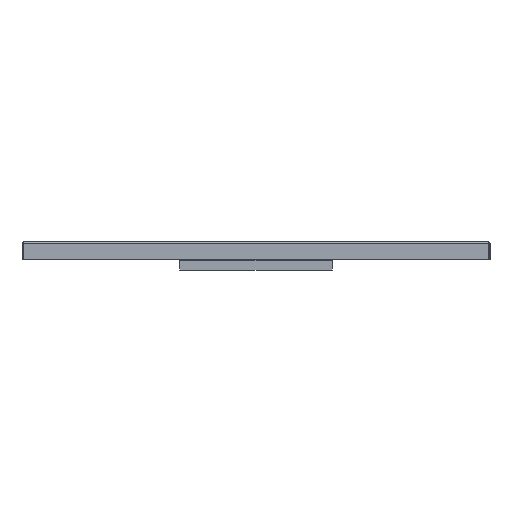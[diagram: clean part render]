
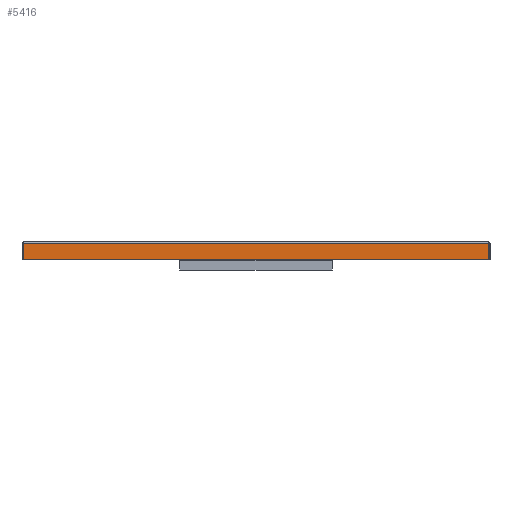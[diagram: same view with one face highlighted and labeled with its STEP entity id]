
A CAD part, left-side view. The second image highlights one B-rep face of the part: STEP entity #5416.
In plain terms, the highlighted planar face has unit normal (-1, 0, 0).
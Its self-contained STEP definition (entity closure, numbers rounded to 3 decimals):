
#17 = CARTESIAN_POINT ( 'NONE',  ( -84.056, 178.164, -2.085 ) ) ;
#82 = CARTESIAN_POINT ( 'NONE',  ( -84.056, 385.126, -2.073 ) ) ;
#144 = CARTESIAN_POINT ( 'NONE',  ( -84.056, 239.636, -2.077 ) ) ;
#170 = DIRECTION ( 'NONE',  ( 0., 1., 0. ) ) ;
#297 = ORIENTED_EDGE ( 'NONE', *, *, #4498, .F. ) ;
#340 = LINE ( 'NONE', #4151, #8381 ) ;
#560 = VERTEX_POINT ( 'NONE', #1806 ) ;
#753 = VERTEX_POINT ( 'NONE', #9732 ) ;
#1075 = CARTESIAN_POINT ( 'NONE',  ( -84.056, 858.317, -2.063 ) ) ;
#1138 = CARTESIAN_POINT ( 'NONE',  ( -84.056, 886.93, -2.005 ) ) ;
#1203 = CARTESIAN_POINT ( 'NONE',  ( -84.056, 711.373, -2.076 ) ) ;
#1263 = DIRECTION ( 'NONE',  ( 0., 1., 0. ) ) ;
#1806 = CARTESIAN_POINT ( 'NONE',  ( -84.056, 90.93, -2.005 ) ) ;
#1949 = CARTESIAN_POINT ( 'NONE',  ( -84.056, 90.93, -2.005 ) ) ;
#2322 = ORIENTED_EDGE ( 'NONE', *, *, #3803, .F. ) ;
#2884 = CARTESIAN_POINT ( 'NONE',  ( -84.056, 136.522, -2.085 ) ) ;
#2947 = CARTESIAN_POINT ( 'NONE',  ( -84.056, 637.9, -2.074 ) ) ;
#3011 = CARTESIAN_POINT ( 'NONE',  ( -84.056, 94.23, -2.012 ) ) ;
#3117 = ORIENTED_EDGE ( 'NONE', *, *, #11789, .F. ) ;
#3271 = DIRECTION ( 'NONE',  ( 0., 0., -1. ) ) ;
#3353 = VERTEX_POINT ( 'NONE', #3582 ) ;
#3431 = VERTEX_POINT ( 'NONE', #7493 ) ;
#3582 = CARTESIAN_POINT ( 'NONE',  ( -84.056, 90.93, -30. ) ) ;
#3648 = B_SPLINE_CURVE_WITH_KNOTS ( 'NONE', 3,
 ( #1138, #5677, #5872, #1075, #11523, #6870, #8549, #6616, #1203, #11325, #2947, #5002, #5737, #82, #3755, #144, #3949, #17, #5805, #2884, #3885, #8740, #3011, #1949 ),
 .UNSPECIFIED., .F., .F.,
 ( 4, 1, 1, 1, 1, 1, 1, 1, 1, 1, 1, 1, 1, 1, 1, 1, 1, 1, 1, 1, 1, 4 ),
 ( 2., 12.245, 30.613, 48.981, 67.349, 85.718, 150.006, 177.558, 205.11, 232.662, 315.318, 397.975, 503.805, 609.635, 657.226, 681.022, 716.715, 734.562, 752.409, 770.256, 788.102, 798. ),
 .UNSPECIFIED. ) ;
#3755 = CARTESIAN_POINT ( 'NONE',  ( -84.056, 298.709, -2.074 ) ) ;
#3803 = EDGE_CURVE ( 'NONE', #3431, #753, #340, .T. ) ;
#3885 = CARTESIAN_POINT ( 'NONE',  ( -84.056, 118.675, -2.062 ) ) ;
#3949 = CARTESIAN_POINT ( 'NONE',  ( -84.056, 203.943, -2.08 ) ) ;
#3998 = VECTOR ( 'NONE', #3271, 1000. ) ;
#4151 = CARTESIAN_POINT ( 'NONE',  ( -84.056, 886.93, -30. ) ) ;
#4422 = AXIS2_PLACEMENT_3D ( 'NONE', #9505, #4769, #170 ) ;
#4498 = EDGE_CURVE ( 'NONE', #3353, #3431, #9731, .T. ) ;
#4769 = DIRECTION ( 'NONE',  ( 1., 0., 0. ) ) ;
#5002 = CARTESIAN_POINT ( 'NONE',  ( -84.056, 573.612, -2.073 ) ) ;
#5190 = CARTESIAN_POINT ( 'NONE',  ( -84.056, 90.93, -2.005 ) ) ;
#5361 = ORIENTED_EDGE ( 'NONE', *, *, #7524, .F. ) ;
#5416 = ADVANCED_FACE ( 'NONE', ( #9572 ), #10741, .F. ) ;
#5677 = CARTESIAN_POINT ( 'NONE',  ( -84.056, 883.515, -2.012 ) ) ;
#5737 = CARTESIAN_POINT ( 'NONE',  ( -84.056, 483.231, -2.073 ) ) ;
#5805 = CARTESIAN_POINT ( 'NONE',  ( -84.056, 154.369, -2.089 ) ) ;
#5872 = CARTESIAN_POINT ( 'NONE',  ( -84.056, 873.978, -2.029 ) ) ;
#5897 = EDGE_LOOP ( 'NONE', ( #5361, #3117, #2322, #297 ) ) ;
#6616 = CARTESIAN_POINT ( 'NONE',  ( -84.056, 751.17, -2.078 ) ) ;
#6870 = CARTESIAN_POINT ( 'NONE',  ( -84.056, 821.581, -2.089 ) ) ;
#7493 = CARTESIAN_POINT ( 'NONE',  ( -84.056, 886.93, -30. ) ) ;
#7524 = EDGE_CURVE ( 'NONE', #560, #3353, #11717, .T. ) ;
#7946 = DIRECTION ( 'NONE',  ( 0., 0., 1. ) ) ;
#8381 = VECTOR ( 'NONE', #7946, 1000. ) ;
#8549 = CARTESIAN_POINT ( 'NONE',  ( -84.056, 787.906, -2.082 ) ) ;
#8740 = CARTESIAN_POINT ( 'NONE',  ( -84.056, 103.478, -2.028 ) ) ;
#9505 = CARTESIAN_POINT ( 'NONE',  ( -84.056, 888.93, 0. ) ) ;
#9572 = FACE_OUTER_BOUND ( 'NONE', #5897, .T. ) ;
#9731 = LINE ( 'NONE', #9798, #9980 ) ;
#9732 = CARTESIAN_POINT ( 'NONE',  ( -84.056, 886.93, -2.005 ) ) ;
#9798 = CARTESIAN_POINT ( 'NONE',  ( -84.056, 90.93, -30. ) ) ;
#9980 = VECTOR ( 'NONE', #1263, 1000. ) ;
#10741 = PLANE ( 'NONE',  #4422 ) ;
#11325 = CARTESIAN_POINT ( 'NONE',  ( -84.056, 683.821, -2.075 ) ) ;
#11523 = CARTESIAN_POINT ( 'NONE',  ( -84.056, 839.949, -2.086 ) ) ;
#11717 = LINE ( 'NONE', #5190, #3998 ) ;
#11789 = EDGE_CURVE ( 'NONE', #753, #560, #3648, .T. ) ;
